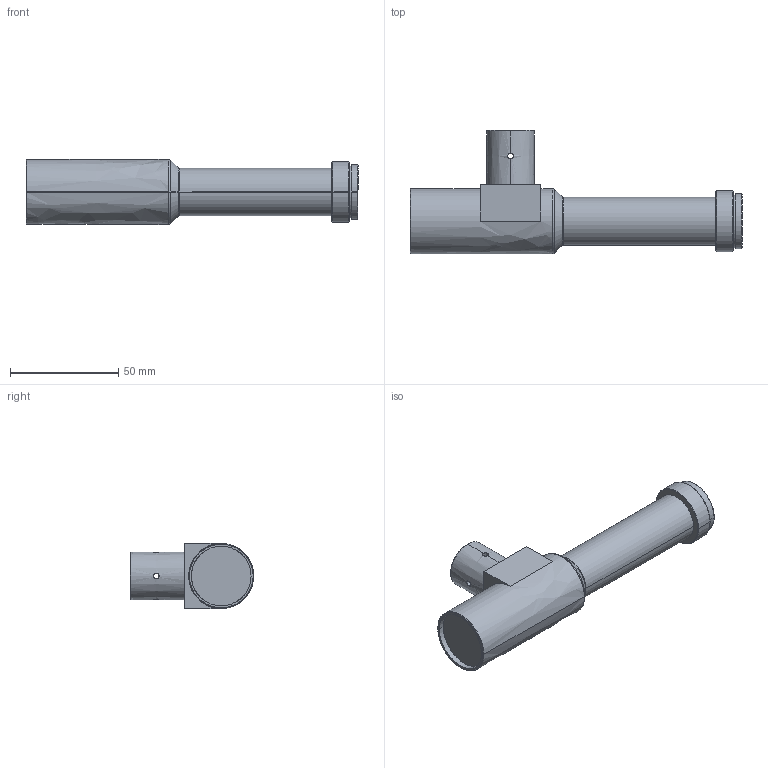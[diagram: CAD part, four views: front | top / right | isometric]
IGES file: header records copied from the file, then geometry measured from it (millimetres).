
Start section: SolidWorks IGES file using analytic representation for surfaces
Global section: file name: C:\Users\16255\Desktop\WWH60-63CTV4-IR1170.IGS; native system: SolidWorks 2017; preprocessor: SolidWorks 2017; author: 16255; date: 221018.114058; units: millimetre
Bounding box: 153.2 x 57 x 30 mm (x, y, z)
Surface area: 17771.2 mm2 (no closed solid volume)
Topology: 0 solids, 0 shells, 56 faces, 1274 edges, 1274 vertices
Faces by surface type: revolution 38, bspline 18
